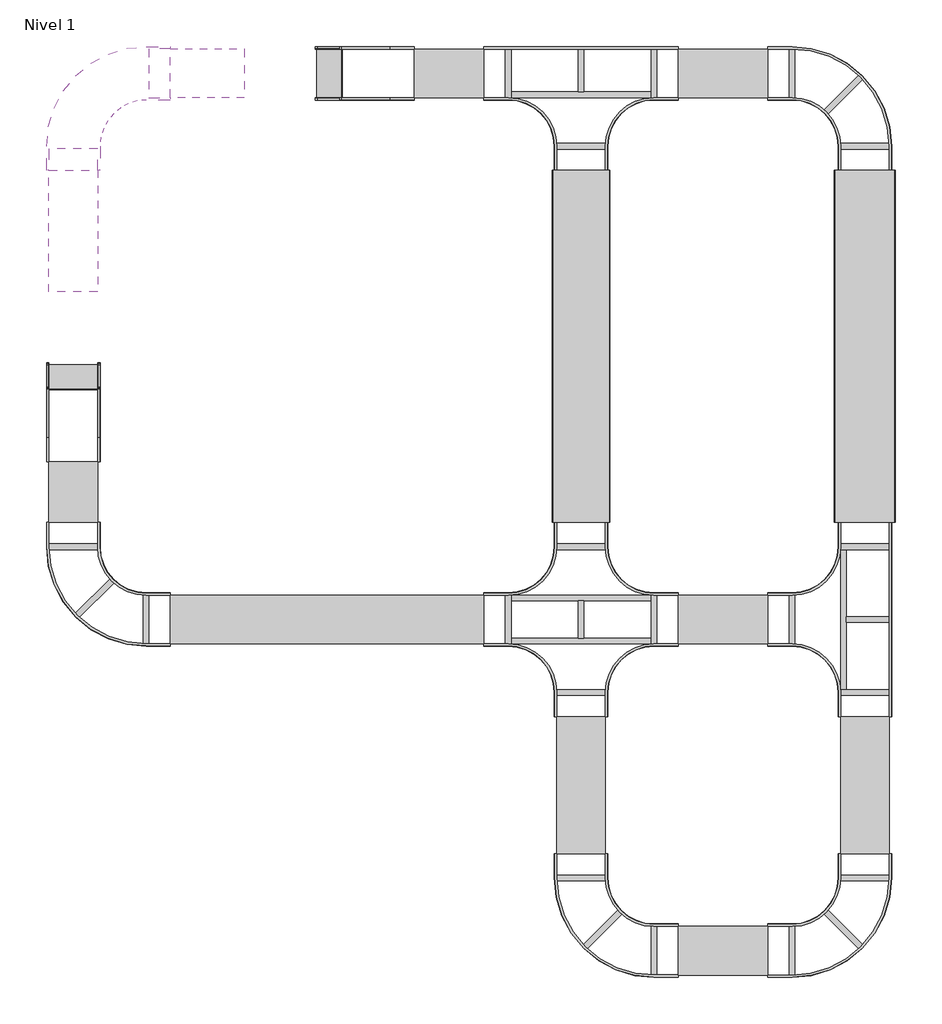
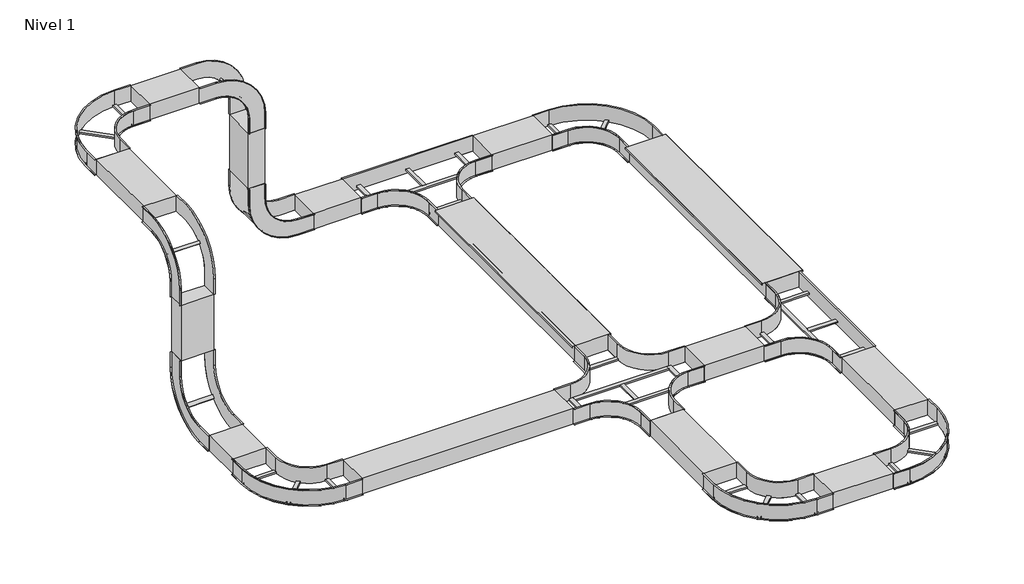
# One storey: 14 cable carrier segments, 12 cable carrier fittings, 2 proxies.
"""IFC4 building model written with IfcOpenShell, lengths in millimetres."""

from ifc_helpers import new_model, si_unit, frame, origin, place, context, project, spatial, polyline, outline, extrude, transform, mapped, element, save
from components import generic_models_d717d20d, generic_models_81fffbc1, cable_carrier_fitting_abc3b4bb, cable_carrier_fitting_7113fb72, cable_carrier_fitting_3d8c255d, cable_carrier_fitting_351786fa, cable_carrier_fitting_2f5dceb8

model = new_model("IFC4")

# Units and contexts
model_context = context("Model", 3, world=origin())
ifc_project = project(units=[si_unit("LENGTHUNIT", "METRE", prefix="MILLI")], contexts=[model_context])

# Site, building, storey
site = spatial("IfcSite", under=ifc_project)
building = spatial("IfcBuilding", under=site)
storey = spatial("IfcBuildingStorey", under=building, Name="Nivel 1", Elevation=0.0)

# Proxies
placement = place(None, origin())
generic_models_shape = generic_models_d717d20d(model_context)
element("IfcBuildingElementProxy", 1, Name="Cable_Ladder_Cover_TBSLR-_Basortrav : Basortrav TBSLR 300 3M", ObjectType="Cable_Ladder_Cover_TBSLR-_Basortrav : Basortrav TBSLR 300 3M", at=placement, inside=storey, context=model_context, shape_type="MappedRepresentation", body=[
    mapped(generic_models_shape, transform((-5174.88152, 2322.5166027, -11.1984451), x_axis=(-1.0, 0.0, 0.0), y_axis=(0.0, -0.9999999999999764, 2.1747806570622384e-07), z_axis=(0.0, 2.1747806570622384e-07, 0.9999999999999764))),
])
generic_models_2_shape = generic_models_81fffbc1(model_context)
element("IfcBuildingElementProxy", 2, Name="Cable_Ladder_Cover_TBSL-_Basortrav : Basortrav TBSL 300 GC", ObjectType="Cable_Ladder_Cover_TBSL-_Basortrav : Basortrav TBSL 300 GC", at=placement, inside=storey, context=model_context, shape_type="MappedRepresentation", body=[
    mapped(generic_models_2_shape, transform((-6926.6992338, 147.5164061, -11.2037606), x_axis=(1.0, -1.3544364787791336e-12, 0.0), y_axis=(1.3544364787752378e-12, 0.9999999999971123, 2.4032054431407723e-06), z_axis=(0.0, -2.4032054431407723e-06, 0.9999999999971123))),
])

# Cable carrier fittings
cable_carrier_fitting_shape = cable_carrier_fitting_abc3b4bb(model_context)
element("IfcCableCarrierFitting", 3, ObjectType="CPBLS-BSLR_Horizontal_Bend-Basortrav : Basortrav CPBSL-300 GC", at=placement, inside=storey, context=model_context, shape_type="MappedRepresentation", body=[
    mapped(cable_carrier_fitting_shape, transform((-10063.7499219, 2921.9528694, 1500.0), x_axis=(-1.0, 0.0, 0.0), y_axis=(0.0, -1.0, 0.0), z_axis=(0.0, 0.0, 1.0))),
])
element("IfcCableCarrierFitting", 4, ObjectType="CPBLS-BSLR_Horizontal_Bend-Basortrav : Basortrav CPBSL-300 GC", at=placement, inside=storey, context=model_context, shape_type="MappedRepresentation", body=[
    mapped(cable_carrier_fitting_shape, transform((-6926.6992338, -2498.0624732, -86.1756051), x_axis=(0.0, -0.9999999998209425, 1.8923932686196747e-05), y_axis=(0.999999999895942, -2.730009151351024e-10, -1.4426225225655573e-05), z_axis=(1.4426225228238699e-05, 1.8923932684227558e-05, 0.9999999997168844))),
])
element("IfcCableCarrierFitting", 5, ObjectType="CPBLS-BSLR_Horizontal_Bend-Basortrav : Basortrav CPBSL-300 GC", at=placement, inside=storey, context=model_context, shape_type="MappedRepresentation", body=[
    mapped(cable_carrier_fitting_shape, transform((-5173.6446541, -2498.0624732, -86.1976263), x_axis=(0.9999999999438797, 0.0, -1.0594367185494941e-05), y_axis=(1.748317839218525e-12, 0.9999999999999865, 1.6502333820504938e-07), z_axis=(1.0594367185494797e-05, -1.6502333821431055e-07, 0.9999999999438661))),
])
element("IfcCableCarrierFitting", 6, ObjectType="CPBLS-BSLR_Horizontal_Bend-Basortrav : Basortrav CPBSL-300 GC", at=placement, inside=storey, context=model_context, shape_type="MappedRepresentation", body=[
    mapped(cable_carrier_fitting_shape, transform((-5173.6446541, 2921.9528694, -86.198535), x_axis=(0.0, 0.9999999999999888, -1.500100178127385e-07), y_axis=(-1.0, 0.0, 0.0), z_axis=(0.0, 1.500100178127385e-07, 0.9999999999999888))),
])
element("IfcCableCarrierFitting", 7, ObjectType="CPBLS-BSLR_Horizontal_Bend-Basortrav : Basortrav CPBSL-300 GC", at=placement, inside=storey, context=model_context, shape_type="MappedRepresentation", body=[
    mapped(cable_carrier_fitting_shape, transform((-10063.7499218, -452.4834137, -86.2212045), x_axis=(0.0, -0.9999999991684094, -4.078211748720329e-05), y_axis=(0.9999999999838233, -2.31969681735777e-10, 5.688024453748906e-06), z_axis=(-5.688024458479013e-06, -4.078211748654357e-05, 0.9999999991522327))),
])
cable_carrier_fitting_2_shape = cable_carrier_fitting_7113fb72(model_context)
element("IfcCableCarrierFitting", 8, ObjectType="CXBSL-CXBSLR_Vertical_Outside_Bend-Basortrav : Basortrav CXBSL-300 GC", at=placement, inside=storey, context=model_context, shape_type="MappedRepresentation", body=[
    mapped(cable_carrier_fitting_2_shape, transform((-8483.8732816, 2921.9528694, 1500.0), x_axis=(1.0, 0.0, 0.0), y_axis=(0.0, 0.0, -1.0), z_axis=(0.0, 1.0, 0.0))),
])
element("IfcCableCarrierFitting", 9, ObjectType="CXBSL-CXBSLR_Vertical_Outside_Bend-Basortrav : Basortrav CXBSL-300 GC", at=placement, inside=storey, context=model_context, shape_type="MappedRepresentation", body=[
    mapped(cable_carrier_fitting_2_shape, transform((-10063.7499218, 1047.5148816, 1500.0), x_axis=(0.0, 0.0, 1.0), y_axis=(0.0, 1.0, 0.0), z_axis=(-1.0, 0.0, 0.0))),
])
cable_carrier_fitting_3_shape = cable_carrier_fitting_3d8c255d(model_context)
element("IfcCableCarrierFitting", 10, ObjectType="CCBSL-CCBSLR_Vertical_Inside_Bend-Basortrav : Basortrav CCBSL-300 GC", at=placement, inside=storey, context=model_context, shape_type="MappedRepresentation", body=[
    mapped(cable_carrier_fitting_3_shape, transform((-8483.8732816, 2921.9528694, -86.198535), x_axis=(0.0, 0.0, -1.0), y_axis=(1.0, 0.0, 0.0), z_axis=(0.0, -1.0, 0.0))),
])
element("IfcCableCarrierFitting", 11, ObjectType="CCBSL-CCBSLR_Vertical_Inside_Bend-Basortrav : Basortrav CCBSL-300 GC", at=placement, inside=storey, context=model_context, shape_type="MappedRepresentation", body=[
    mapped(cable_carrier_fitting_3_shape, transform((-10063.7499218, 1047.5148816, -86.2), x_axis=(0.0, 0.0, -1.0), y_axis=(0.0, -1.0, 0.0), z_axis=(-1.0, 0.0, 0.0))),
])
cable_carrier_fitting_4_shape = cable_carrier_fitting_351786fa(model_context)
element("IfcCableCarrierFitting", 12, ObjectType="TEBSL-TEBSLR_Horizontal Tee-Basortrav : Basortrav TEBSL-300 GC", at=placement, inside=storey, context=model_context, shape_type="MappedRepresentation", body=[
    mapped(cable_carrier_fitting_4_shape, transform((-6926.6992338, 2921.9528694, -86.198535), x_axis=(1.0, 0.0, 0.0), y_axis=(0.0, 1.0, 0.0), z_axis=(0.0, 0.0, 1.0))),
])
element("IfcCableCarrierFitting", 13, ObjectType="TEBSL-TEBSLR_Horizontal Tee-Basortrav : Basortrav TEBSL-300 GC", at=placement, inside=storey, context=model_context, shape_type="MappedRepresentation", body=[
    mapped(cable_carrier_fitting_4_shape, transform((-5173.6446541, -452.4834136, -86.1978416), x_axis=(0.0, -0.9999999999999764, 2.174780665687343e-07), y_axis=(0.9999999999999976, 0.0, -7.019749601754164e-08), z_axis=(7.01974960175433e-08, 2.1747806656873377e-07, 0.9999999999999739))),
])
cable_carrier_fitting_5_shape = cable_carrier_fitting_2f5dceb8(model_context)
element("IfcCableCarrierFitting", 14, ObjectType="CRBSL-CRBSLR_Horizontal Cross-Over-Basortrav : Basortrav CRBSL-300 GC", at=placement, inside=storey, context=model_context, shape_type="MappedRepresentation", body=[
    mapped(cable_carrier_fitting_5_shape, transform((-6926.6992338, -452.4834136, -86.2033609), x_axis=(0.9999999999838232, 0.0, 5.688024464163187e-06), y_axis=(3.7896710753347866e-12, 0.9999999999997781, -6.662543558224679e-07), z_axis=(-5.688024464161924e-06, 6.662543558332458e-07, 0.9999999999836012))),
])

# Cable carrier segments
element("IfcCableCarrierSegment", 15, ObjectType="Basortrav BSL-i304", at=placement, inside=storey, context=model_context, shape_type="SweptSolid", body=[
    extrude(outline(polyline([(0.0, -300.0), (0.0, 0.0), (845.57906, 0.0), (845.57906, -300.0), (0.0, -300.0)])), frame((-6776.6992338, -1052.4848329, -161.2029611), z_axis=(0.0, 1.8923932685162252e-05, 0.9999999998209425), x_axis=(2.088694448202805e-12, -0.9999999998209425, 1.8923932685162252e-05)), (0.0, 0.0, 1.0), 150.0),
])
element("IfcCableCarrierSegment", 16, ObjectType="Basortrav BSLR-GC", at=placement, inside=storey, context=model_context, shape_type="SweptSolid", body=[
    extrude(outline(polyline([(0.0, -300.0), (0.0, 0.0), (2174.4362829, 0.0), (2174.4362829, -300.0), (0.0, -300.0)])), frame((-5323.6446541, 147.5165701, -161.1979721), z_axis=(0.0, 2.1747806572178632e-07, 0.9999999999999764), x_axis=(0.0, 0.9999999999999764, -2.1747806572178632e-07)), (0.0, 0.0, 1.0), 150.0),
])
element("IfcCableCarrierSegment", 17, ObjectType="Basortrav BSL-i316", at=placement, inside=storey, context=model_context, shape_type="SweptSolid", body=[
    extrude(outline(polyline([(-1e-07, -300.0), (0.0, 0.0), (553.0545798, -1e-07), (553.0545798, -300.0), (-1e-07, -300.0)])), frame((-5773.6456045, -2648.0623357, -161.1915447), z_axis=(1.2672927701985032e-05, -1.8341229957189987e-06, 0.9999999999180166), x_axis=(-0.9999999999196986, -2.959175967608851e-10, 1.2672927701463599e-05)), (0.0, 0.0, 1.0), 150.0),
])
element("IfcCableCarrierSegment", 18, ObjectType="Basortrav BSL-i316", at=placement, inside=storey, context=model_context, shape_type="SweptSolid", body=[
    extrude(outline(polyline([(-9463.7499219, 2771.9528694), (-9463.7499219, 3071.9528694), (-9008.8732816, 3071.9528694), (-9008.8732816, 2771.9528694), (-9463.7499219, 2771.9528694)])), frame((0.0, 0.0, 1425.0), z_axis=(0.0, 0.0, 1.0), x_axis=(1.0, 0.0, 0.0)), (0.0, 0.0, 1.0), 150.0),
])
element("IfcCableCarrierSegment", 19, ObjectType="Basortrav BSL-i316", at=placement, inside=storey, context=model_context, shape_type="SweptSolid", body=[
    extrude(outline(polyline([(0.0, -300.0), (0.0, 0.0), (553.0545797, 0.0), (553.0545797, -300.0), (0.0, -300.0)])), frame((-6326.6992338, 3071.9528225, -161.1986287), z_axis=(0.0, 6.2453701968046e-07, 0.999999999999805), x_axis=(1.0, 0.0, 0.0)), (0.0, 0.0, 1.0), 150.0),
])
element("IfcCableCarrierSegment", 20, ObjectType="Basortrav BSL-i316", at=placement, inside=storey, context=model_context, shape_type="SweptSolid", body=[
    extrude(outline(polyline([(75.0, -17.7050984), (75.0, -317.7050984), (-75.0, -317.7050984), (-75.0, -17.7050984), (75.0, -17.7050984)])), frame((-8483.8732816, 2754.247771, 438.801465), z_axis=(0.0, -1.700403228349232e-12, 1.0), x_axis=(-1.0, 0.0, 0.0)), (0.0, 0.0, 1.0), 536.198535),
])
element("IfcCableCarrierSegment", 21, ObjectType="Basortrav BSL-i316", at=placement, inside=storey, context=model_context, shape_type="SweptSolid", body=[
    extrude(outline(polyline([(-7958.8732816, 2771.9528694), (-7958.8732816, 3071.9528694), (-7526.6992338, 3071.9528694), (-7526.6992338, 2771.9528694), (-7958.8732816, 2771.9528694)])), frame((0.0, 0.0, -161.198535), z_axis=(0.0, 0.0, 1.0), x_axis=(1.0, 0.0, 0.0)), (0.0, 0.0, 1.0), 150.0),
])
element("IfcCableCarrierSegment", 22, ObjectType="Basortrav BSL-i316", at=placement, inside=storey, context=model_context, shape_type="SweptSolid", body=[
    extrude(outline(polyline([(0.0, -300.0), (0.0, 0.0), (1937.0506881, 0.0), (1937.0506881, -300.0), (0.0, -300.0)])), frame((-9463.7494953, -302.4834138, -161.2177917), z_axis=(-5.688024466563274e-06, 0.0, 0.9999999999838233), x_axis=(0.9999999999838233, 8.378929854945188e-11, 5.688024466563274e-06)), (0.0, 0.0, 1.0), 150.0),
])
element("IfcCableCarrierSegment", 23, ObjectType="Basortrav BSL 6M-GC", at=placement, inside=storey, context=model_context, shape_type="SweptSolid", body=[
    extrude(outline(polyline([(0.0, -300.0), (0.0, 0.0), (2174.436283, 0.0), (2174.436283, -300.0), (0.0, -300.0)])), frame((-6776.6992338, 2321.9530496, -161.198535), z_axis=(0.0, -2.4032054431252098e-06, 0.9999999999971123), x_axis=(-1.3525653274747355e-12, -0.9999999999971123, -2.4032054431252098e-06)), (0.0, 0.0, 1.0), 150.0),
])
element("IfcCableCarrierSegment", 24, ObjectType="Basortrav BSL-i316", at=placement, inside=storey, context=model_context, shape_type="SweptSolid", body=[
    extrude(outline(polyline([(0.0, -300.0), (0.0, 0.0), (553.0545797, 0.0), (553.0545797, -300.0), (0.0, -300.0)])), frame((-6326.6989424, -302.4834136, -161.1999481), z_axis=(-3.884884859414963e-06, 0.0, 0.9999999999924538), x_axis=(0.9999999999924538, 0.0, 3.884884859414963e-06)), (0.0, 0.0, 1.0), 150.0),
])
element("IfcCableCarrierSegment", 25, ObjectType="Basortrav BSL-i316", at=placement, inside=storey, context=model_context, shape_type="SweptSolid", body=[
    extrude(outline(polyline([(0.0, -300.0), (0.0, 0.0), (845.5790597, 0.0), (845.5790597, -300.0), (0.0, -300.0)])), frame((-5323.6446541, -1898.0624896, -161.1975272), z_axis=(0.0, 2.1747806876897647e-07, 0.9999999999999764), x_axis=(0.0, 0.9999999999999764, -2.1747806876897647e-07)), (0.0, 0.0, 1.0), 150.0),
])
element("IfcCableCarrierSegment", 26, ObjectType="Basortrav BSL-i316", at=placement, inside=storey, context=model_context, shape_type="SweptSolid", body=[
    extrude(outline(polyline([(1e-07, -300.0), (0.0, 0.0), (749.4379878, 0.0), (749.4379878, -300.0), (1e-07, -300.0)])), frame((-9913.7499219, 2321.9528694, 1425.0), z_axis=(0.0, 4.684745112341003e-12, 1.0), x_axis=(7.919238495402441e-11, -1.0, 4.684745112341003e-12)), (0.0, 0.0, 1.0), 150.0),
])
element("IfcCableCarrierSegment", 27, ObjectType="Basortrav BSL-GC", at=placement, inside=storey, context=model_context, shape_type="SweptSolid", body=[
    extrude(outline(polyline([(-10213.7499218, 1122.5148816), (-9913.7499218, 1122.5148816), (-9913.7499218, 972.5148816), (-10213.7499218, 972.5148816), (-10213.7499218, 1122.5148816)])), frame((0.0, 0.0, 438.8), z_axis=(0.0, 0.0, 1.0), x_axis=(1.0, 0.0, 0.0)), (0.0, 0.0, 1.0), 536.2),
])
element("IfcCableCarrierSegment", 28, ObjectType="Basortrav BSL-GC", at=placement, inside=storey, context=model_context, shape_type="SweptSolid", body=[
    extrude(outline(polyline([(-1e-07, -300.0), (0.0, 0.0), (374.9982957, -1e-07), (374.9982958, -300.0), (-1e-07, -300.0)])), frame((-9913.7499218, 522.5142286, -161.2), z_axis=(0.0, 8.706121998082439e-06, 0.9999999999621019), x_axis=(-1.2149535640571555e-10, -0.9999999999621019, 8.706121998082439e-06)), (0.0, 0.0, 1.0), 150.0),
])

save(model, "model.ifc")
